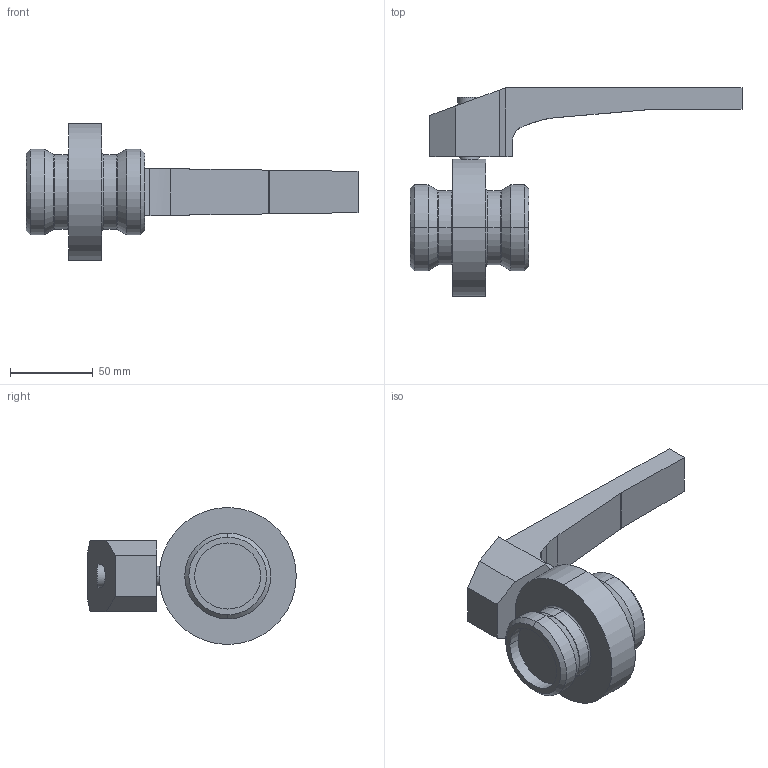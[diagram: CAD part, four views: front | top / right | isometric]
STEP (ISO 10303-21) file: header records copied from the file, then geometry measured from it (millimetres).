
FILE_DESCRIPTION(('Creo Elements/Direct Modeling STEP Export'),'2;1');
FILE_NAME('SV1-25-H-12G.stp','2015-10-29T12:11:30',(''),(''),'PTC Creo Elements/Direct Modeling STEP processor for AP214 (Solid Model)','PTC Creo Elements/Direct Modeling 19.0B 21-Mar-2015 (C) Parametric Technology GmbH','');
FILE_SCHEMA(('AUTOMOTIVE_DESIGN { 1 0 10303 214 1 1 1 1 }'));
Length unit declared in the file: millimetre
Products named in the file (3): SV1-25-12G; Handhebel-SV; SV1-25-H-12G
Assembly tree (2 placements, depth 2):
  SV1-25-H-12G
    Handhebel-SV
    SV1-25-12G
Bounding box: 201 x 126.24 x 83 mm (x, y, z)
Volume: 312989.3 mm3; surface area: 47747.8 mm2
Topology: 2 solids, 2 shells, 61 faces, 132 edges, 81 vertices
Faces by surface type: plane 25, cylinder 20, cone 8, torus 8
Entity records: 2016 total; most frequent: CARTESIAN_POINT 652, DIRECTION 273, ORIENTED_EDGE 264, EDGE_CURVE 132, AXIS2_PLACEMENT_3D 101, VERTEX_POINT 81, VECTOR 71, LINE 71
